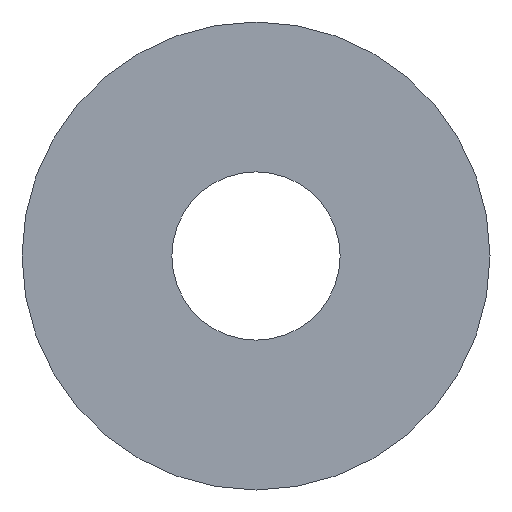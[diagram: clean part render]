
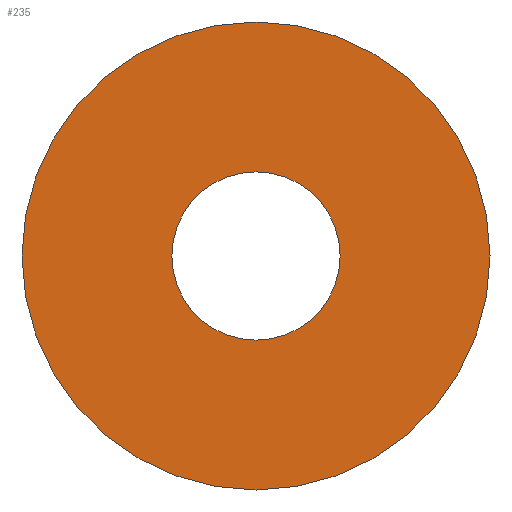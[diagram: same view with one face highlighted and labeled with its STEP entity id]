
A CAD part, front view. The second image highlights one B-rep face of the part: STEP entity #235.
In plain terms, the highlighted planar face has unit normal (0, -1, 0).
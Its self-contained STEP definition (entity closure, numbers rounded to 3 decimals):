
#84=CARTESIAN_POINT('',(-10.15,0.0,0.0));
#85=VERTEX_POINT('',#84);
#86=CARTESIAN_POINT('',(0.0,0.0,0.0));
#87=DIRECTION('',(0.0,1.0,0.0));
#88=DIRECTION('',(-1.0,0.0,0.0));
#89=AXIS2_PLACEMENT_3D('',#86,#87,#88);
#90=CIRCLE('',#89,10.15);
#91=EDGE_CURVE('',#85,#85,#90,.T.);
#212=CARTESIAN_POINT('',(-3.65,0.0,0.0));
#213=VERTEX_POINT('',#212);
#214=CARTESIAN_POINT('',(0.0,0.0,0.0));
#215=DIRECTION('',(0.0,1.0,0.0));
#216=DIRECTION('',(-1.0,0.0,0.0));
#217=AXIS2_PLACEMENT_3D('',#214,#215,#216);
#218=CIRCLE('',#217,3.65);
#219=EDGE_CURVE('',#213,#213,#218,.T.);
#224=CARTESIAN_POINT('',(-6.162,0.0,0.0));
#225=DIRECTION('',(0.0,-1.0,0.0));
#226=DIRECTION('',(0.0,0.0,-1.0));
#227=AXIS2_PLACEMENT_3D('',#224,#225,#226);
#228=PLANE('',#227);
#229=ORIENTED_EDGE('',*,*,#91,.F.);
#230=EDGE_LOOP('',(#229));
#231=FACE_OUTER_BOUND('',#230,.T.);
#232=ORIENTED_EDGE('',*,*,#219,.T.);
#233=EDGE_LOOP('',(#232));
#234=FACE_BOUND('',#233,.T.);
#235=ADVANCED_FACE('',(#231,#234),#228,.T.);
